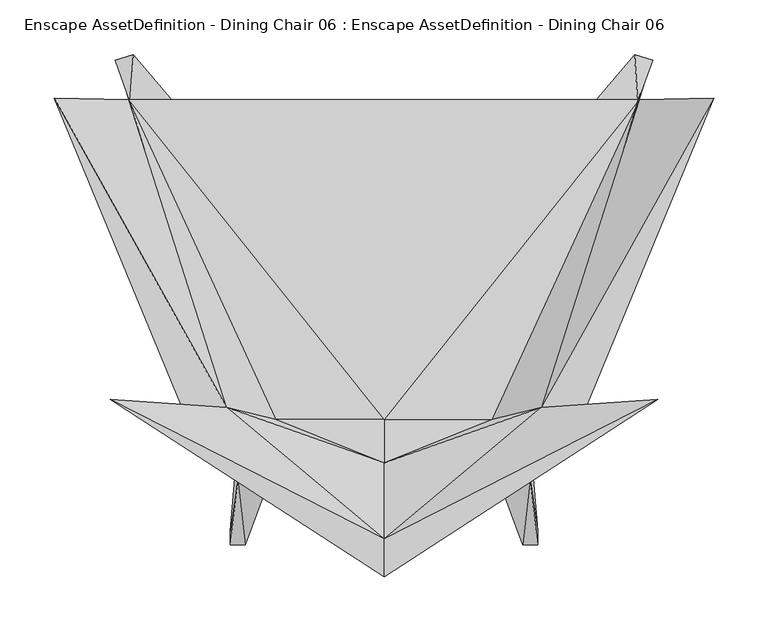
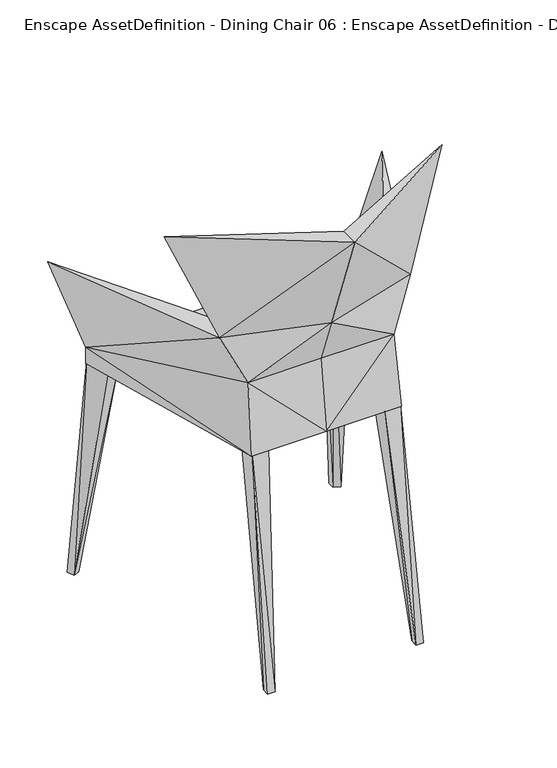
"""IFC4 building model written with IfcOpenShell, lengths in millimetres: geographic element geometry, Enscape AssetDefinition - Dining Chair 06 : Enscape AssetDefinition - Dining Chair 06."""

from ifc_helpers import new_model, si_unit, origin, place, context, project, spatial, faceted_brep, source, transform, mapped, element, save


def enscape_assetdefinition_dining_chair_06_enscape_993760cc(model_context):
    return source(origin(), model_context, "Body", "Brep", [
        faceted_brep([(234.4340384, 185.060963, 417.6128209), (-234.4340384, 185.060963, 417.6128209), (234.4340533, 185.060963, 448.1365383), (132.3156655, -146.8207389, 546.1458564), (135.6856525, -164.4624174, 417.6128209), (302.4169803, 186.6403371, 634.5845461), (172.6174206, -127.7164817, 634.5845461), (99.3839726, -108.3788797, 514.4073963), (144.2869157, -97.4793062, 634.5845461), (-234.4340533, 185.060963, 448.1365383), (0.0, -108.3788797, 514.4073963), (0.0, -164.4624174, 417.6128209), (0.0, -146.8207389, 546.1458564), (-132.3156655, -146.8207389, 546.1458564), (-135.6856525, -164.4624174, 417.6128209), (-172.6174206, -127.7164817, 634.5845461), (0.0, -180.0191551, 634.5845461), (0.0, -253.2572746, 832.3023319), (251.4076829, -90.3675929, 832.3023319), (0.0, -218.4012681, 832.3023319), (-251.4076829, -90.3675929, 832.3023319), (-144.2869157, -97.4793062, 634.5845461), (0.0, -148.4320015, 634.5845461), (-99.3839726, -108.3788797, 514.4073963), (-302.4169803, 186.6403371, 634.5845461)], [[[0, 1, 2]], [[3, 4, 2]], [[5, 6, 2]], [[7, 8, 2]], [[9, 10, 2]], [[1, 9, 2]], [[4, 0, 2]], [[6, 3, 2]], [[8, 5, 2]], [[2, 10, 7]], [[4, 3, 11]], [[0, 4, 11]], [[11, 1, 0]], [[12, 13, 11]], [[11, 14, 1]], [[3, 12, 11]], [[13, 14, 11]], [[13, 9, 14]], [[13, 15, 9]], [[12, 16, 13]], [[16, 15, 13]], [[16, 12, 3]], [[16, 17, 15]], [[6, 16, 3]], [[17, 16, 6]], [[18, 19, 17]], [[19, 20, 17]], [[18, 17, 6]], [[17, 20, 15]], [[18, 6, 8]], [[6, 5, 8]], [[18, 8, 19]], [[20, 19, 21]], [[8, 22, 19]], [[19, 22, 21]], [[15, 20, 21]], [[23, 9, 21]], [[24, 15, 21]], [[9, 24, 21]], [[23, 21, 22]], [[8, 7, 22]], [[10, 23, 22]], [[7, 10, 22]], [[9, 23, 10]], [[9, 1, 14]], [[15, 24, 9]]]),
        faceted_brep([(-140.8926398, -223.7090021, 0.0), (-127.4887174, -223.7090021, 0.0), (-134.3672723, -163.1956547, 422.2064912), (-134.3672723, -129.9765408, 422.2064912), (-140.8926398, -210.4994208, 0.0), (-104.848884, -129.9765408, 422.2064912), (-104.848884, -163.1956697, 422.2064912), (-127.4887174, -210.4994208, 0.0)], [[[0, 1, 2]], [[3, 4, 2]], [[3, 2, 5]], [[1, 6, 2]], [[4, 0, 2]], [[2, 6, 5]], [[6, 1, 7]], [[7, 1, 0]], [[4, 7, 0]], [[4, 3, 7]], [[3, 5, 7]], [[5, 6, 7]]]),
        faceted_brep([(-246.5315163, 221.5032876, 1.99e-05), (-241.3945645, 209.2755139, 1.99e-05), (-233.1156582, 183.8560253, 422.2064912), (-193.8422471, 183.8560253, 422.2064912), (-230.1572263, 226.6948074, 3.98e-05), (-220.2112675, 139.7455931, 422.2064912), (-193.8422471, 151.6110003, 422.206521), (-230.1572263, 214.4670188, 1.99e-05)], [[[0, 1, 2]], [[3, 4, 2]], [[5, 6, 2]], [[1, 5, 2]], [[4, 0, 2]], [[6, 3, 2]], [[5, 1, 6]], [[1, 7, 6]], [[7, 1, 0]], [[4, 7, 0]], [[7, 4, 3]], [[6, 7, 3]]]),
        faceted_brep([(104.848884, -129.9765408, 422.2064912), (127.4887174, -210.4994208, 0.0), (104.848884, -163.1956697, 422.2064912), (134.2522055, -163.1956547, 422.2064912), (127.4887174, -223.7090021, 0.0), (134.2522055, -129.9765408, 422.2064912), (140.8926398, -210.4994208, 0.0), (140.8926398, -223.7090021, 0.0)], [[[0, 1, 2]], [[2, 3, 0]], [[1, 4, 2]], [[3, 2, 4]], [[0, 5, 1]], [[5, 6, 1]], [[4, 1, 6]], [[3, 5, 0]], [[7, 3, 4]], [[7, 6, 3]], [[6, 5, 3]], [[7, 4, 6]]]),
        faceted_brep([(193.8422471, 183.8560253, 422.2064912), (233.0005914, 183.8560253, 422.2064912), (230.1572263, 226.6948074, 3.98e-05), (246.5315163, 221.5032876, 1.99e-05), (230.1572263, 214.4670188, 1.99e-05), (220.0962156, 139.7455931, 422.2064912), (241.3945645, 209.2755139, 1.99e-05), (193.8422471, 151.6110003, 422.206521)], [[[0, 1, 2]], [[2, 3, 4]], [[1, 3, 2]], [[0, 2, 4]], [[5, 6, 1]], [[5, 1, 7]], [[6, 3, 1]], [[1, 0, 7]], [[7, 0, 4]], [[7, 4, 6]], [[3, 6, 4]], [[5, 7, 6]]]),
    ])


if __name__ == "__main__":
    model = new_model("IFC4")
    model_context = context("Model", 3, world=origin())
    ifc_project = project(units=[si_unit("LENGTHUNIT", "METRE", prefix="MILLI")], contexts=[model_context])
    site = spatial("IfcSite", under=ifc_project)
    building = spatial("IfcBuilding", under=site)
    placement = place(None, origin())
    enscape_assetdefinition_dining_chair_06_enscape_shape = enscape_assetdefinition_dining_chair_06_enscape_993760cc(model_context)
    element("IfcGeographicElement", 1, ObjectType="Enscape AssetDefinition - Dining Chair 06 : Enscape AssetDefinition - Dining Chair 06", at=placement, inside=building, context=model_context, shape_type="MappedRepresentation", body=[
        mapped(enscape_assetdefinition_dining_chair_06_enscape_shape, transform((0.0, 0.0, 0.0), x_axis=(1.0, 0.0, 0.0), y_axis=(0.0, 1.0, 0.0), z_axis=(0.0, 0.0, 1.0))),
    ])
    save(model, "model.ifc")
